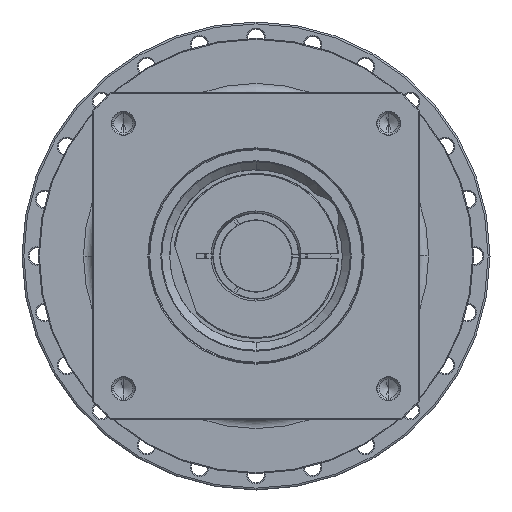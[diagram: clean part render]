
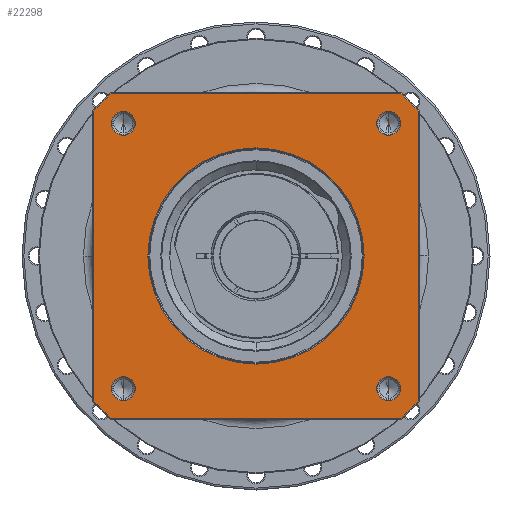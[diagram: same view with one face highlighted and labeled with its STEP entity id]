
A CAD part, left-side view. The second image highlights one B-rep face of the part: STEP entity #22298.
In plain terms, the highlighted planar face has unit normal (-1, 0, 0) as drawn and (0, 0, 1) by its records, which use the part's own axes.
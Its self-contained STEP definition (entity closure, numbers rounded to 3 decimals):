
#21049=CARTESIAN_POINT('',(0.,0.,
76.));
#21050=DIRECTION('',(0.,0.,-1.));
#21051=DIRECTION('',(0.,-1.,0.));
#21052=AXIS2_PLACEMENT_3D('',#21049,#21050,#21051);
#21054=CARTESIAN_POINT('',(0.,0.,
76.));
#21055=DIRECTION('',(0.,0.,-1.));
#21056=DIRECTION('',(0.,1.,0.));
#21057=AXIS2_PLACEMENT_3D('',#21054,#21055,#21056);
#21059=CARTESIAN_POINT('',(0.,0.,76.));
#21060=DIRECTION('',(0.,0.,1.));
#21061=DIRECTION('',(-0.746,-0.666,0.));
#21062=AXIS2_PLACEMENT_3D('',#21059,#21060,#21061);
#21074=DIRECTION('',(1.,0.,0.));
#21075=VECTOR('',#21074,154.58);
#21076=CARTESIAN_POINT('',(-77.29,-86.5,76.));
#21077=LINE('',#21076,#21075);
#21087=CARTESIAN_POINT('',(0.,0.,76.));
#21088=DIRECTION('',(0.,0.,1.));
#21089=DIRECTION('',(0.666,-0.746,0.));
#21090=AXIS2_PLACEMENT_3D('',#21087,#21088,#21089);
#21102=DIRECTION('',(0.,1.,0.));
#21103=VECTOR('',#21102,154.58);
#21104=CARTESIAN_POINT('',(86.5,-77.29,76.));
#21105=LINE('',#21104,#21103);
#21115=CARTESIAN_POINT('',(0.,0.,76.));
#21116=DIRECTION('',(0.,0.,1.));
#21117=DIRECTION('',(0.746,0.666,0.));
#21118=AXIS2_PLACEMENT_3D('',#21115,#21116,#21117);
#21130=DIRECTION('',(-1.,0.,0.));
#21131=VECTOR('',#21130,154.58);
#21132=CARTESIAN_POINT('',(77.29,86.5,76.));
#21133=LINE('',#21132,#21131);
#21138=CARTESIAN_POINT('',(0.,0.,76.));
#21139=DIRECTION('',(0.,0.,1.));
#21140=DIRECTION('',(-0.666,0.746,0.));
#21141=AXIS2_PLACEMENT_3D('',#21138,#21139,#21140);
#21158=DIRECTION('',(0.,-1.,0.));
#21159=VECTOR('',#21158,154.58);
#21160=CARTESIAN_POINT('',(-86.5,77.29,76.));
#21161=LINE('',#21160,#21159);
#21244=CARTESIAN_POINT('',(-70.711,70.711,76.));
#21245=DIRECTION('',(0.,0.,1.));
#21246=DIRECTION('',(-1.,0.,0.));
#21247=AXIS2_PLACEMENT_3D('',#21244,#21245,#21246);
#21262=CARTESIAN_POINT('',(-70.711,70.711,76.));
#21263=DIRECTION('',(0.,0.,1.));
#21264=DIRECTION('',(1.,0.,0.));
#21265=AXIS2_PLACEMENT_3D('',#21262,#21263,#21264);
#21298=CARTESIAN_POINT('',(70.711,70.711,76.));
#21299=DIRECTION('',(0.,0.,1.));
#21300=DIRECTION('',(-1.,0.,0.));
#21301=AXIS2_PLACEMENT_3D('',#21298,#21299,#21300);
#21316=CARTESIAN_POINT('',(70.711,70.711,76.));
#21317=DIRECTION('',(0.,0.,1.));
#21318=DIRECTION('',(1.,0.,0.));
#21319=AXIS2_PLACEMENT_3D('',#21316,#21317,#21318);
#21352=CARTESIAN_POINT('',(70.711,-70.711,76.));
#21353=DIRECTION('',(0.,0.,1.));
#21354=DIRECTION('',(-1.,0.,0.));
#21355=AXIS2_PLACEMENT_3D('',#21352,#21353,#21354);
#21370=CARTESIAN_POINT('',(70.711,-70.711,76.));
#21371=DIRECTION('',(0.,0.,1.));
#21372=DIRECTION('',(1.,0.,0.));
#21373=AXIS2_PLACEMENT_3D('',#21370,#21371,#21372);
#21406=CARTESIAN_POINT('',(-70.711,-70.711,76.));
#21407=DIRECTION('',(0.,0.,1.));
#21408=DIRECTION('',(-1.,0.,0.));
#21409=AXIS2_PLACEMENT_3D('',#21406,#21407,#21408);
#21424=CARTESIAN_POINT('',(-70.711,-70.711,76.));
#21425=DIRECTION('',(0.,0.,1.));
#21426=DIRECTION('',(1.,0.,0.));
#21427=AXIS2_PLACEMENT_3D('',#21424,#21425,#21426);
#21556=CARTESIAN_POINT('',(86.5,-77.29,76.));
#21557=CARTESIAN_POINT('',(86.5,77.29,76.));
#21558=VERTEX_POINT('',#21556);
#21559=VERTEX_POINT('',#21557);
#21564=CARTESIAN_POINT('',(77.29,-86.5,76.));
#21565=VERTEX_POINT('',#21564);
#21568=CARTESIAN_POINT('',(-77.29,-86.5,76.));
#21569=VERTEX_POINT('',#21568);
#21572=CARTESIAN_POINT('',(-86.5,-77.29,76.));
#21573=VERTEX_POINT('',#21572);
#21576=CARTESIAN_POINT('',(-86.5,77.29,76.));
#21577=VERTEX_POINT('',#21576);
#21580=CARTESIAN_POINT('',(-77.29,86.5,76.));
#21581=VERTEX_POINT('',#21580);
#21584=CARTESIAN_POINT('',(77.29,86.5,76.));
#21585=VERTEX_POINT('',#21584);
#21594=CARTESIAN_POINT('',(-77.111,70.711,76.));
#21595=CARTESIAN_POINT('',(-64.311,70.711,76.));
#21596=VERTEX_POINT('',#21594);
#21597=VERTEX_POINT('',#21595);
#21620=CARTESIAN_POINT('',(77.111,70.711,76.));
#21621=CARTESIAN_POINT('',(64.311,70.711,76.));
#21622=VERTEX_POINT('',#21620);
#21623=VERTEX_POINT('',#21621);
#21628=CARTESIAN_POINT('',(77.111,-70.711,76.));
#21629=CARTESIAN_POINT('',(64.311,-70.711,76.));
#21630=VERTEX_POINT('',#21628);
#21631=VERTEX_POINT('',#21629);
#21636=CARTESIAN_POINT('',(-64.311,-70.711,76.));
#21637=CARTESIAN_POINT('',(-77.111,-70.711,76.));
#21638=VERTEX_POINT('',#21636);
#21639=VERTEX_POINT('',#21637);
#21644=CARTESIAN_POINT('',(0.,-57.65,76.));
#21645=CARTESIAN_POINT('',(0.,57.65,
76.));
#21646=VERTEX_POINT('',#21644);
#21647=VERTEX_POINT('',#21645);
#22246=CARTESIAN_POINT('',(0.,0.,76.));
#22247=DIRECTION('',(0.,0.,1.));
#22248=DIRECTION('',(1.,0.,0.));
#22249=AXIS2_PLACEMENT_3D('',#22246,#22247,#22248);
#22250=PLANE('',#22249);
#22252=ORIENTED_EDGE('',*,*,#22251,.F.);
#22254=ORIENTED_EDGE('',*,*,#22253,.F.);
#22256=ORIENTED_EDGE('',*,*,#22255,.F.);
#22258=ORIENTED_EDGE('',*,*,#22257,.F.);
#22260=ORIENTED_EDGE('',*,*,#22259,.F.);
#22262=ORIENTED_EDGE('',*,*,#22261,.F.);
#22264=ORIENTED_EDGE('',*,*,#22263,.F.);
#22266=ORIENTED_EDGE('',*,*,#22265,.F.);
#22267=EDGE_LOOP('',(#22252,#22254,#22256,#22258,#22260,#22262,#22264,#22266));
#22268=FACE_OUTER_BOUND('',#22267,.F.);
#22269=ORIENTED_EDGE('',*,*,#22236,.F.);
#22271=ORIENTED_EDGE('',*,*,#22270,.F.);
#22272=EDGE_LOOP('',(#22269,#22271));
#22273=FACE_BOUND('',#22272,.F.);
#22275=ORIENTED_EDGE('',*,*,#22274,.T.);
#22277=ORIENTED_EDGE('',*,*,#22276,.T.);
#22278=EDGE_LOOP('',(#22275,#22277));
#22279=FACE_BOUND('',#22278,.F.);
#22281=ORIENTED_EDGE('',*,*,#22280,.T.);
#22283=ORIENTED_EDGE('',*,*,#22282,.T.);
#22284=EDGE_LOOP('',(#22281,#22283));
#22285=FACE_BOUND('',#22284,.F.);
#22287=ORIENTED_EDGE('',*,*,#22286,.T.);
#22289=ORIENTED_EDGE('',*,*,#22288,.T.);
#22290=EDGE_LOOP('',(#22287,#22289));
#22291=FACE_BOUND('',#22290,.F.);
#22293=ORIENTED_EDGE('',*,*,#22292,.T.);
#22295=ORIENTED_EDGE('',*,*,#22294,.T.);
#22296=EDGE_LOOP('',(#22293,#22295));
#22297=FACE_BOUND('',#22296,.F.);
#22298=ADVANCED_FACE('',(#22268,#22273,#22279,#22285,#22291,#22297),#22250,.T.);
#21053=CIRCLE('',#21052,57.65);
#21058=CIRCLE('',#21057,57.65);
#21063=CIRCLE('',#21062,116.);
#21091=CIRCLE('',#21090,116.);
#21119=CIRCLE('',#21118,116.);
#21142=CIRCLE('',#21141,116.);
#21248=CIRCLE('',#21247,6.4);
#21266=CIRCLE('',#21265,6.4);
#21302=CIRCLE('',#21301,6.4);
#21320=CIRCLE('',#21319,6.4);
#21356=CIRCLE('',#21355,6.4);
#21374=CIRCLE('',#21373,6.4);
#21410=CIRCLE('',#21409,6.4);
#21428=CIRCLE('',#21427,6.4);
#22236=EDGE_CURVE('',#21646,#21647,#21053,.T.);
#22251=EDGE_CURVE('',#21573,#21569,#21063,.T.);
#22253=EDGE_CURVE('',#21577,#21573,#21161,.T.);
#22255=EDGE_CURVE('',#21581,#21577,#21142,.T.);
#22257=EDGE_CURVE('',#21585,#21581,#21133,.T.);
#22259=EDGE_CURVE('',#21559,#21585,#21119,.T.);
#22261=EDGE_CURVE('',#21558,#21559,#21105,.T.);
#22263=EDGE_CURVE('',#21565,#21558,#21091,.T.);
#22265=EDGE_CURVE('',#21569,#21565,#21077,.T.);
#22270=EDGE_CURVE('',#21647,#21646,#21058,.T.);
#22274=EDGE_CURVE('',#21596,#21597,#21248,.T.);
#22276=EDGE_CURVE('',#21597,#21596,#21266,.T.);
#22280=EDGE_CURVE('',#21623,#21622,#21302,.T.);
#22282=EDGE_CURVE('',#21622,#21623,#21320,.T.);
#22286=EDGE_CURVE('',#21631,#21630,#21356,.T.);
#22288=EDGE_CURVE('',#21630,#21631,#21374,.T.);
#22292=EDGE_CURVE('',#21639,#21638,#21410,.T.);
#22294=EDGE_CURVE('',#21638,#21639,#21428,.T.);
